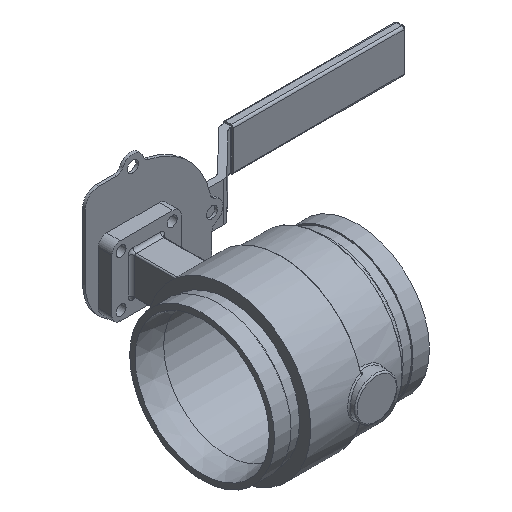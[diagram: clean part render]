
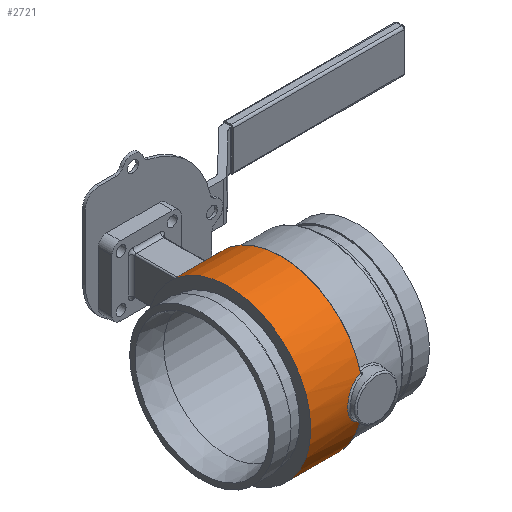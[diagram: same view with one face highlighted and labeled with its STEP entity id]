
A CAD part, isometric view. The second image highlights one B-rep face of the part: STEP entity #2721.
In plain terms, the highlighted cylindrical face has radius 79.375 mm (diameter 158.75 mm), a full revolution.
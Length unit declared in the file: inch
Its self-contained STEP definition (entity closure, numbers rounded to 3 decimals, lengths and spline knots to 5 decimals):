
#74=B_SPLINE_CURVE_WITH_KNOTS('',3,(#4690,#4691,#4692,#4693,#4694,#4695,
#4696),.UNSPECIFIED.,.F.,.F.,(4,1,1,1,4),(-5.47005,-4.68862,
-3.90718,-3.12575,-2.73502),.UNSPECIFIED.);
#75=B_SPLINE_CURVE_WITH_KNOTS('',3,(#4697,#4698,#4699,#4700,#4701,#4702,
#4703),.UNSPECIFIED.,.F.,.F.,(4,1,1,1,4),(-2.73502,-2.34431,
-1.56287,-0.78144,0.),
 .UNSPECIFIED.);
#81=B_SPLINE_CURVE_WITH_KNOTS('',3,(#4832,#4833,#4834,#4835,#4836),
 .UNSPECIFIED.,.F.,.F.,(4,1,4),(0.,0.10395,0.24254),
 .UNSPECIFIED.);
#82=B_SPLINE_CURVE_WITH_KNOTS('',3,(#4840,#4841,#4842,#4843,#4844),
 .UNSPECIFIED.,.F.,.F.,(4,1,4),(0.,0.10395,0.24255),
 .UNSPECIFIED.);
#237=FACE_OUTER_BOUND('',#397,.T.);
#397=EDGE_LOOP('',(#1921,#1922,#1923,#1924,#1925,#1926,#1927,#1928,#1929,
#1930,#1931,#1932,#1933));
#585=LINE('',#4830,#756);
#586=LINE('',#4846,#757);
#587=LINE('',#4849,#758);
#756=VECTOR('',#3529,0.3937);
#757=VECTOR('',#3532,0.3937);
#758=VECTOR('',#3535,3.125);
#935=CIRCLE('',#3038,3.125);
#936=CIRCLE('',#3039,3.125);
#937=CIRCLE('',#3040,3.125);
#938=CIRCLE('',#3041,3.125);
#939=CIRCLE('',#3042,3.125);
#1127=VERTEX_POINT('',#4624);
#1129=VERTEX_POINT('',#4687);
#1130=VERTEX_POINT('',#4689);
#1150=VERTEX_POINT('',#4827);
#1151=VERTEX_POINT('',#4829);
#1152=VERTEX_POINT('',#4831);
#1153=VERTEX_POINT('',#4837);
#1154=VERTEX_POINT('',#4839);
#1155=VERTEX_POINT('',#4845);
#1156=VERTEX_POINT('',#4848);
#1157=VERTEX_POINT('',#4850);
#1409=EDGE_CURVE('',#1129,#1130,#74,.T.);
#1410=EDGE_CURVE('',#1130,#1127,#75,.T.);
#1442=EDGE_CURVE('',#1150,#1129,#935,.T.);
#1443=EDGE_CURVE('',#1151,#1150,#585,.T.);
#1444=EDGE_CURVE('',#1152,#1151,#81,.T.);
#1445=EDGE_CURVE('',#1153,#1152,#936,.T.);
#1446=EDGE_CURVE('',#1154,#1153,#82,.T.);
#1447=EDGE_CURVE('',#1155,#1154,#586,.T.);
#1448=EDGE_CURVE('',#1127,#1155,#937,.T.);
#1449=EDGE_CURVE('',#1130,#1156,#587,.T.);
#1450=EDGE_CURVE('',#1156,#1157,#938,.T.);
#1451=EDGE_CURVE('',#1157,#1156,#939,.T.);
#1921=ORIENTED_EDGE('',*,*,#1409,.F.);
#1922=ORIENTED_EDGE('',*,*,#1442,.F.);
#1923=ORIENTED_EDGE('',*,*,#1443,.F.);
#1924=ORIENTED_EDGE('',*,*,#1444,.F.);
#1925=ORIENTED_EDGE('',*,*,#1445,.F.);
#1926=ORIENTED_EDGE('',*,*,#1446,.F.);
#1927=ORIENTED_EDGE('',*,*,#1447,.F.);
#1928=ORIENTED_EDGE('',*,*,#1448,.F.);
#1929=ORIENTED_EDGE('',*,*,#1410,.F.);
#1930=ORIENTED_EDGE('',*,*,#1449,.T.);
#1931=ORIENTED_EDGE('',*,*,#1450,.T.);
#1932=ORIENTED_EDGE('',*,*,#1451,.T.);
#1933=ORIENTED_EDGE('',*,*,#1449,.F.);
#2470=CYLINDRICAL_SURFACE('',#3037,3.125);
#2721=ADVANCED_FACE('',(#237),#2470,.T.);
#3037=AXIS2_PLACEMENT_3D('',#4826,#3525,#3526);
#3038=AXIS2_PLACEMENT_3D('',#4828,#3527,#3528);
#3039=AXIS2_PLACEMENT_3D('',#4838,#3530,#3531);
#3040=AXIS2_PLACEMENT_3D('',#4847,#3533,#3534);
#3041=AXIS2_PLACEMENT_3D('',#4851,#3536,#3537);
#3042=AXIS2_PLACEMENT_3D('',#4852,#3538,#3539);
#3525=DIRECTION('center_axis',(0.,0.,-1.));
#3526=DIRECTION('ref_axis',(0.,1.,0.));
#3527=DIRECTION('center_axis',(0.,0.,-1.));
#3528=DIRECTION('ref_axis',(0.,-1.,0.));
#3529=DIRECTION('',(0.,0.,-1.));
#3530=DIRECTION('center_axis',(0.,0.,-1.));
#3531=DIRECTION('ref_axis',(0.,1.,0.));
#3532=DIRECTION('',(0.,0.,1.));
#3533=DIRECTION('center_axis',(0.,0.,-1.));
#3534=DIRECTION('ref_axis',(0.,-1.,0.));
#3535=DIRECTION('',(0.,0.,1.));
#3536=DIRECTION('center_axis',(0.,0.,-1.));
#3537=DIRECTION('ref_axis',(1.,0.,0.));
#3538=DIRECTION('center_axis',(0.,0.,-1.));
#3539=DIRECTION('ref_axis',(1.,0.,0.));
#4624=CARTESIAN_POINT('',(-0.79651,-3.02179,0.26));
#4687=CARTESIAN_POINT('',(0.79651,-3.02179,0.26));
#4689=CARTESIAN_POINT('',(0.,-3.125,0.85));
#4690=CARTESIAN_POINT('Ctrl Pts',(0.79651,-3.02179,0.26));
#4691=CARTESIAN_POINT('Ctrl Pts',(0.76574,-3.0299,0.35732));
#4692=CARTESIAN_POINT('Ctrl Pts',(0.66955,-3.05443,0.53973));
#4693=CARTESIAN_POINT('Ctrl Pts',(0.44086,-3.09756,0.74409));
#4694=CARTESIAN_POINT('Ctrl Pts',(0.20193,-3.12137,0.83612));
#4695=CARTESIAN_POINT('Ctrl Pts',(0.05047,-3.12497,
0.84996));
#4696=CARTESIAN_POINT('Ctrl Pts',(-0.00001,-3.12498,
0.84997));
#4697=CARTESIAN_POINT('Ctrl Pts',(-0.00001,-3.12498,
0.84997));
#4698=CARTESIAN_POINT('Ctrl Pts',(-0.05049,-3.12498,
0.84998));
#4699=CARTESIAN_POINT('Ctrl Pts',(-0.20193,-3.12143,0.83619));
#4700=CARTESIAN_POINT('Ctrl Pts',(-0.44083,-3.09753,0.74406));
#4701=CARTESIAN_POINT('Ctrl Pts',(-0.66955,-3.05444,
0.53975));
#4702=CARTESIAN_POINT('Ctrl Pts',(-0.76574,-3.0299,0.35732));
#4703=CARTESIAN_POINT('Ctrl Pts',(-0.79651,-3.02179,
0.26));
#4826=CARTESIAN_POINT('Origin',(0.,0.,1.25));
#4827=CARTESIAN_POINT('',(0.73764,3.03669,0.26));
#4828=CARTESIAN_POINT('Origin',(0.,0.,0.26));
#4829=CARTESIAN_POINT('',(0.73764,3.03669,0.52));
#4830=CARTESIAN_POINT('',(0.73764,3.03669,1.25));
#4831=CARTESIAN_POINT('',(0.67783,3.0506,0.58));
#4832=CARTESIAN_POINT('Ctrl Pts',(0.67783,3.0506,0.58));
#4833=CARTESIAN_POINT('Ctrl Pts',(0.69111,3.04765,0.58));
#4834=CARTESIAN_POINT('Ctrl Pts',(0.72214,3.0405,0.5694));
#4835=CARTESIAN_POINT('Ctrl Pts',(0.73764,3.03669,0.53819));
#4836=CARTESIAN_POINT('Ctrl Pts',(0.73764,3.03669,0.52));
#4837=CARTESIAN_POINT('',(-0.67783,3.0506,0.58));
#4838=CARTESIAN_POINT('Origin',(0.,0.,0.58));
#4839=CARTESIAN_POINT('',(-0.73764,3.03669,0.52));
#4840=CARTESIAN_POINT('Ctrl Pts',(-0.73764,3.03669,0.52));
#4841=CARTESIAN_POINT('Ctrl Pts',(-0.73764,3.03669,0.53364));
#4842=CARTESIAN_POINT('Ctrl Pts',(-0.72628,3.03949,0.56537));
#4843=CARTESIAN_POINT('Ctrl Pts',(-0.69553,3.04667,0.58));
#4844=CARTESIAN_POINT('Ctrl Pts',(-0.67783,3.0506,0.58));
#4845=CARTESIAN_POINT('',(-0.73764,3.03669,0.26));
#4846=CARTESIAN_POINT('',(-0.73764,3.03669,1.25));
#4847=CARTESIAN_POINT('Origin',(0.,0.,0.26));
#4848=CARTESIAN_POINT('',(0.,-3.125,2.25));
#4849=CARTESIAN_POINT('',(0.,-3.125,1.25));
#4850=CARTESIAN_POINT('',(0.,3.125,2.25));
#4851=CARTESIAN_POINT('Origin',(0.,0.,2.25));
#4852=CARTESIAN_POINT('Origin',(0.,0.,2.25));
